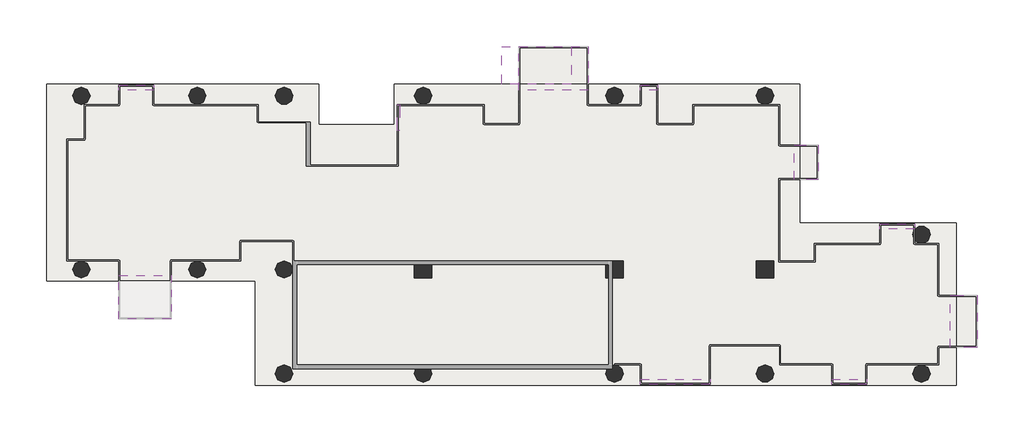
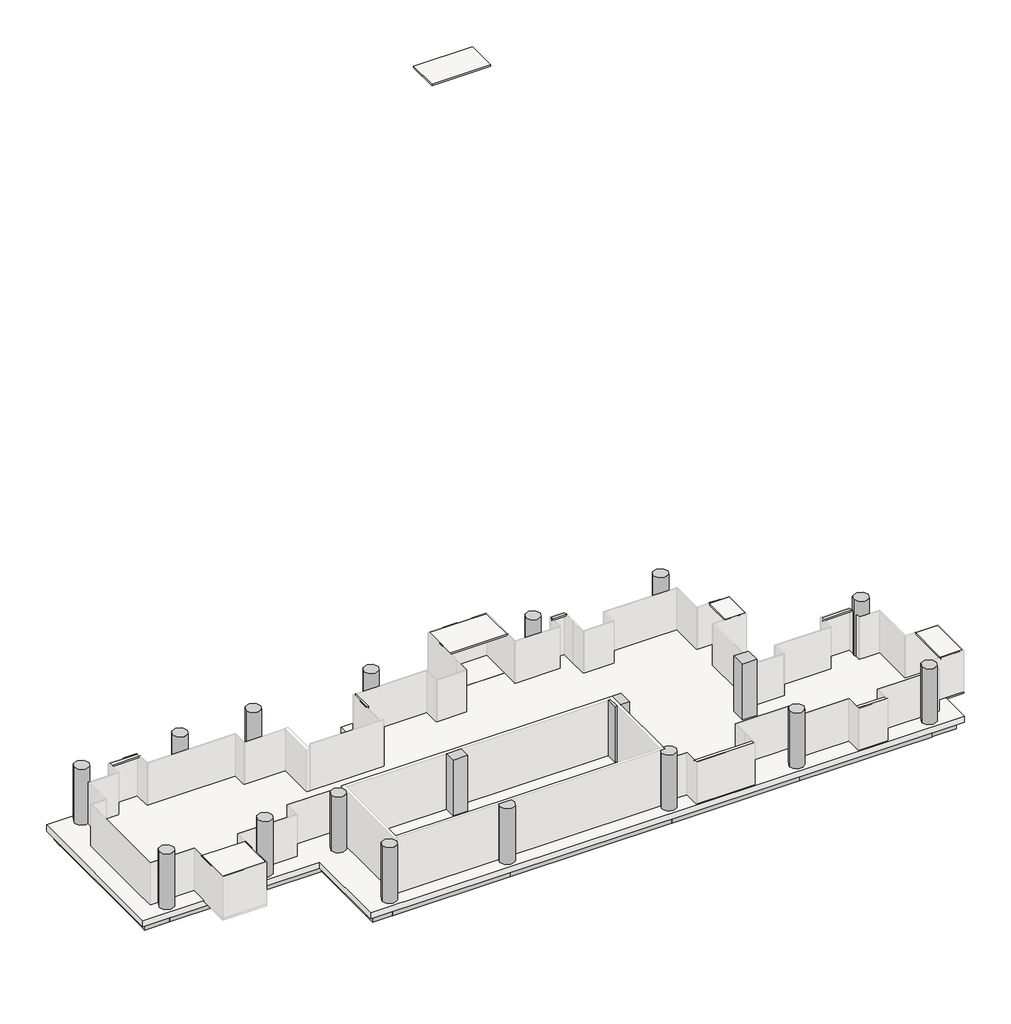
# One storey, part 2 of 2: 39 slabs, 25 beams, 18 columns.
"""IFC4 building model written with IfcOpenShell, lengths in millimetres."""

from ifc_helpers import new_model, si_unit, point, frame, frame_2d, origin, place, context, project, spatial, polyline, circle_curve, trimmed, segment, composite_curve, outline, extrude, transform, mapped, element, save
from ifc_brep_helpers import plane_surface, cylinder_surface, advanced_brep
from components import ajn_arc_ossature_rec_ba_700x600_5242ffbb, ajn_arc_ossature_rec_ba_700x600_213c05e2, ajn_arc_ossature_rec_ba_700x600_4d623bda, ajn_arc_ossature_rec_ba_700x600_c2a8f1af, ajn_arc_ossature_rec_ba_700x600_b2f97811, ajn_arc_ossature_rec_ba_700x600_e688680c, ajn_arc_ossature_rec_ba_700x600_8adee879, ajn_arc_ossature_rec_ba_700x600_6677e51c, ajn_arc_ossature_rec_ba_700x600_60e35d56, ajn_arc_ossature_rec_ba_700x600_9ae0f913, ajn_arc_ossature_rec_ba_700x600_5c14351b, ajn_arc_ossature_rec_ba_700x600_e883967f, ajn_arc_ossature_rec_ba_700x600_0984b03c, ajn_arc_ossature_rec_ba_700x600_78f846f2, ajn_arc_ossature_rec_ba_700x600_e869caa8, ajn_arc_ossature_rec_ba_700x600_0388eb48, ajn_arc_ossature_rec_ba_700x600_e143517c, ajn_arc_ossature_rec_ba_700x600_758f1bfa, ajn_arc_ossature_rec_ba_700x600_64ba80e1, ajn_arc_poteau_circulaire_d1b7cf26

model = new_model("IFC4")

# Units and contexts
model_context = context("Model", 3, world=origin())
ifc_project = project(units=[si_unit("LENGTHUNIT", "METRE", prefix="MILLI")], contexts=[model_context])

# Site, building, storey
site = spatial("IfcSite", under=ifc_project)
building = spatial("IfcBuilding", under=site)
storey = spatial("IfcBuildingStorey", under=building, Name="TW-L 07", Elevation=24399.9999686)

# Beams
placement = place(None, origin())
ajn_arc_ossature_rec_ba_700x600_shape = ajn_arc_ossature_rec_ba_700x600_5242ffbb(model_context)
element("IfcBeam", 1, ObjectType="AJN-ARC-OSSATURE REC-BA : 700x600", at=placement, inside=storey, context=model_context, shape_type="MappedRepresentation", body=[
    mapped(ajn_arc_ossature_rec_ba_700x600_shape, transform((119350.0, 39300.0, 23849.9999686), x_axis=(-1.0, 0.0, 0.0), y_axis=(0.0, -1.0, 0.0), z_axis=(0.0, 0.0, 1.0))),
])
ajn_arc_ossature_rec_ba_700x600_2_shape = ajn_arc_ossature_rec_ba_700x600_213c05e2(model_context)
element("IfcBeam", 2, ObjectType="AJN-ARC-OSSATURE REC-BA : 700x600", at=placement, inside=storey, context=model_context, shape_type="MappedRepresentation", body=[
    mapped(ajn_arc_ossature_rec_ba_700x600_2_shape, transform((100900.0, 34800.0, 23849.9999686), x_axis=(0.0, -1.0, 0.0), y_axis=(1.0, 0.0, 0.0), z_axis=(0.0, 0.0, 1.0))),
])
ajn_arc_ossature_rec_ba_700x600_3_shape = ajn_arc_ossature_rec_ba_700x600_4d623bda(model_context)
element("IfcBeam", 3, ObjectType="AJN-ARC-OSSATURE REC-BA : 700x600", at=placement, inside=storey, context=model_context, shape_type="MappedRepresentation", body=[
    mapped(ajn_arc_ossature_rec_ba_700x600_3_shape, transform((112150.0, 24900.0, 23849.9999686), x_axis=(1.0, 0.0, 0.0), y_axis=(0.0, 1.0, 0.0), z_axis=(0.0, 0.0, 1.0))),
])
ajn_arc_ossature_rec_ba_700x600_4_shape = ajn_arc_ossature_rec_ba_700x600_c2a8f1af(model_context)
element("IfcBeam", 4, ObjectType="AJN-ARC-OSSATURE REC-BA : 700x600", at=placement, inside=storey, context=model_context, shape_type="MappedRepresentation", body=[
    mapped(ajn_arc_ossature_rec_ba_700x600_4_shape, transform((116200.0, 24900.0, 23849.9999686), x_axis=(1.0, 0.0, 0.0), y_axis=(0.0, 1.0, 0.0), z_axis=(0.0, 0.0, 1.0))),
])
ajn_arc_ossature_rec_ba_700x600_5_shape = ajn_arc_ossature_rec_ba_700x600_b2f97811(model_context)
element("IfcBeam", 5, ObjectType="AJN-ARC-OSSATURE REC-BA : 700x600", at=placement, inside=storey, context=model_context, shape_type="MappedRepresentation", body=[
    mapped(ajn_arc_ossature_rec_ba_700x600_5_shape, transform((106900.0, 30300.0, 23849.9999686), x_axis=(1.0, 0.0, 0.0), y_axis=(0.0, 1.0, 0.0), z_axis=(0.0, 0.0, 1.0))),
])
ajn_arc_ossature_rec_ba_700x600_6_shape = ajn_arc_ossature_rec_ba_700x600_e688680c(model_context)
element("IfcBeam", 6, ObjectType="AJN-ARC-OSSATURE REC-BA : 700x600", at=placement, inside=storey, context=model_context, shape_type="MappedRepresentation", body=[
    mapped(ajn_arc_ossature_rec_ba_700x600_6_shape, transform((111700.0, 27600.0, 23849.9999686), x_axis=(0.0, -1.0, 0.0), y_axis=(1.0, 0.0, 0.0), z_axis=(0.0, 0.0, 1.0))),
])
ajn_arc_ossature_rec_ba_700x600_7_shape = ajn_arc_ossature_rec_ba_700x600_8adee879(model_context)
element("IfcBeam", 7, ObjectType="AJN-ARC-OSSATURE REC-BA : 700x600", at=placement, inside=storey, context=model_context, shape_type="MappedRepresentation", body=[
    mapped(ajn_arc_ossature_rec_ba_700x600_7_shape, transform((124750.0, 24900.0, 23849.9999686), x_axis=(1.0, 0.0, 0.0), y_axis=(0.0, 1.0, 0.0), z_axis=(0.0, 0.0, 1.0))),
])
element("IfcBeam", 8, ObjectType="AJN-ARC-OSSATURE REC-BA : 700x600", at=placement, inside=storey, context=model_context, shape_type="MappedRepresentation", body=[
    mapped(ajn_arc_ossature_rec_ba_700x600_7_shape, transform((124750.0, 39300.0, 23849.9999686), x_axis=(-1.0, 0.0, 0.0), y_axis=(0.0, -1.0, 0.0), z_axis=(0.0, 0.0, 1.0))),
])
ajn_arc_ossature_rec_ba_700x600_8_shape = ajn_arc_ossature_rec_ba_700x600_6677e51c(model_context)
element("IfcBeam", 9, ObjectType="AJN-ARC-OSSATURE REC-BA : 700x600", at=placement, inside=storey, context=model_context, shape_type="MappedRepresentation", body=[
    mapped(ajn_arc_ossature_rec_ba_700x600_8_shape, transform((133600.0, 24900.0, 23849.9999686), x_axis=(1.0, 0.0, 0.0), y_axis=(0.0, 1.0, 0.0), z_axis=(0.0, 0.0, 1.0))),
])
ajn_arc_ossature_rec_ba_700x600_9_shape = ajn_arc_ossature_rec_ba_700x600_60e35d56(model_context)
element("IfcBeam", 10, ObjectType="AJN-ARC-OSSATURE REC-BA : 700x600", at=placement, inside=storey, context=model_context, shape_type="MappedRepresentation", body=[
    mapped(ajn_arc_ossature_rec_ba_700x600_9_shape, transform((141550.0, 24900.0, 23849.9999686), x_axis=(1.0, 0.0, 0.0), y_axis=(0.0, 1.0, 0.0), z_axis=(0.0, 0.0, 1.0))),
])
ajn_arc_ossature_rec_ba_700x600_10_shape = ajn_arc_ossature_rec_ba_700x600_9ae0f913(model_context)
element("IfcBeam", 11, ObjectType="AJN-ARC-OSSATURE REC-BA : 700x600", at=placement, inside=storey, context=model_context, shape_type="MappedRepresentation", body=[
    mapped(ajn_arc_ossature_rec_ba_700x600_10_shape, transform((146200.0, 24900.0, 23849.9999686), x_axis=(1.0, 0.0, 0.0), y_axis=(0.0, 1.0, 0.0), z_axis=(0.0, 0.0, 1.0))),
])
element("IfcBeam", 12, ObjectType="AJN-ARC-OSSATURE REC-BA : 700x600", at=placement, inside=storey, context=model_context, shape_type="MappedRepresentation", body=[
    mapped(ajn_arc_ossature_rec_ba_700x600_10_shape, transform((101500.0, 39300.0, 23849.9999686), x_axis=(-1.0, 0.0, 0.0), y_axis=(0.0, -1.0, 0.0), z_axis=(0.0, 0.0, 1.0))),
])
ajn_arc_ossature_rec_ba_700x600_11_shape = ajn_arc_ossature_rec_ba_700x600_5c14351b(model_context)
element("IfcBeam", 13, ObjectType="AJN-ARC-OSSATURE REC-BA : 700x600", at=placement, inside=storey, context=model_context, shape_type="MappedRepresentation", body=[
    mapped(ajn_arc_ossature_rec_ba_700x600_11_shape, transform((146800.0, 28500.0, 23849.9999686), x_axis=(0.0, 1.0, 0.0), y_axis=(-1.0, 0.0, 0.0), z_axis=(0.0, 0.0, 1.0))),
])
element("IfcBeam", 14, ObjectType="AJN-ARC-OSSATURE REC-BA : 700x600", at=placement, inside=storey, context=model_context, shape_type="MappedRepresentation", body=[
    mapped(ajn_arc_ossature_rec_ba_700x600_11_shape, transform((138700.0, 35700.0, 23849.9999686), x_axis=(0.0, 1.0, 0.0), y_axis=(-1.0, 0.0, 0.0), z_axis=(0.0, 0.0, 1.0))),
])
ajn_arc_ossature_rec_ba_700x600_12_shape = ajn_arc_ossature_rec_ba_700x600_e883967f(model_context)
element("IfcBeam", 15, ObjectType="AJN-ARC-OSSATURE REC-BA : 700x600", at=placement, inside=storey, context=model_context, shape_type="MappedRepresentation", body=[
    mapped(ajn_arc_ossature_rec_ba_700x600_12_shape, transform((146200.0, 32100.0, 23849.9999686), x_axis=(-1.0, 0.0, 0.0), y_axis=(0.0, -1.0, 0.0), z_axis=(0.0, 0.0, 1.0))),
])
element("IfcBeam", 16, ObjectType="AJN-ARC-OSSATURE REC-BA : 700x600", at=placement, inside=storey, context=model_context, shape_type="MappedRepresentation", body=[
    mapped(ajn_arc_ossature_rec_ba_700x600_12_shape, transform((138100.0, 39300.0, 23849.9999686), x_axis=(-1.0, 0.0, 0.0), y_axis=(0.0, -1.0, 0.0), z_axis=(0.0, 0.0, 1.0))),
])
element("IfcBeam", 17, ObjectType="AJN-ARC-OSSATURE REC-BA : 700x600", at=placement, inside=storey, context=model_context, shape_type="MappedRepresentation", body=[
    mapped(ajn_arc_ossature_rec_ba_700x600_12_shape, transform((113200.0, 39300.0, 23849.9999686), x_axis=(-1.0, 0.0, 0.0), y_axis=(0.0, -1.0, 0.0), z_axis=(0.0, 0.0, 1.0))),
])
element("IfcBeam", 18, ObjectType="AJN-ARC-OSSATURE REC-BA : 700x600", at=placement, inside=storey, context=model_context, shape_type="MappedRepresentation", body=[
    mapped(ajn_arc_ossature_rec_ba_700x600_12_shape, transform((101500.0, 30300.0, 23849.9999686), x_axis=(1.0, 0.0, 0.0), y_axis=(0.0, 1.0, 0.0), z_axis=(0.0, 0.0, 1.0))),
])
ajn_arc_ossature_rec_ba_700x600_13_shape = ajn_arc_ossature_rec_ba_700x600_0984b03c(model_context)
element("IfcBeam", 19, ObjectType="AJN-ARC-OSSATURE REC-BA : 700x600", at=placement, inside=storey, context=model_context, shape_type="MappedRepresentation", body=[
    mapped(ajn_arc_ossature_rec_ba_700x600_13_shape, transform((142150.0, 32100.0, 23849.9999686), x_axis=(-1.0, 0.0, 0.0), y_axis=(0.0, -1.0, 0.0), z_axis=(0.0, 0.0, 1.0))),
])
ajn_arc_ossature_rec_ba_700x600_14_shape = ajn_arc_ossature_rec_ba_700x600_78f846f2(model_context)
element("IfcBeam", 20, ObjectType="AJN-ARC-OSSATURE REC-BA : 700x600", at=placement, inside=storey, context=model_context, shape_type="MappedRepresentation", body=[
    mapped(ajn_arc_ossature_rec_ba_700x600_14_shape, transform((133600.0, 39300.0, 23849.9999686), x_axis=(-1.0, 0.0, 0.0), y_axis=(0.0, -1.0, 0.0), z_axis=(0.0, 0.0, 1.0))),
])
ajn_arc_ossature_rec_ba_700x600_15_shape = ajn_arc_ossature_rec_ba_700x600_e869caa8(model_context)
element("IfcBeam", 21, ObjectType="AJN-ARC-OSSATURE REC-BA : 700x600", at=placement, inside=storey, context=model_context, shape_type="MappedRepresentation", body=[
    mapped(ajn_arc_ossature_rec_ba_700x600_15_shape, transform((118900.0, 38250.0, 23849.9999686), x_axis=(0.0, -1.0, 0.0), y_axis=(1.0, 0.0, 0.0), z_axis=(0.0, 0.0, 1.0))),
])
ajn_arc_ossature_rec_ba_700x600_16_shape = ajn_arc_ossature_rec_ba_700x600_0388eb48(model_context)
element("IfcBeam", 22, ObjectType="AJN-ARC-OSSATURE REC-BA : 700x600", at=placement, inside=storey, context=model_context, shape_type="MappedRepresentation", body=[
    mapped(ajn_arc_ossature_rec_ba_700x600_16_shape, transform((110350.0, 39300.0, 23849.9999686), x_axis=(-1.0, 0.0, 0.0), y_axis=(0.0, -1.0, 0.0), z_axis=(0.0, 0.0, 1.0))),
])
ajn_arc_ossature_rec_ba_700x600_17_shape = ajn_arc_ossature_rec_ba_700x600_e143517c(model_context)
element("IfcBeam", 23, ObjectType="AJN-ARC-OSSATURE REC-BA : 700x600", at=placement, inside=storey, context=model_context, shape_type="MappedRepresentation", body=[
    mapped(ajn_arc_ossature_rec_ba_700x600_17_shape, transform((105100.0, 39300.0, 23849.9999686), x_axis=(-1.0, 0.0, 0.0), y_axis=(0.0, -1.0, 0.0), z_axis=(0.0, 0.0, 1.0))),
])
ajn_arc_ossature_rec_ba_700x600_18_shape = ajn_arc_ossature_rec_ba_700x600_758f1bfa(model_context)
element("IfcBeam", 24, ObjectType="AJN-ARC-OSSATURE REC-BA : 700x600", at=placement, inside=storey, context=model_context, shape_type="MappedRepresentation", body=[
    mapped(ajn_arc_ossature_rec_ba_700x600_18_shape, transform((116350.0, 37200.0, 23849.9999686), x_axis=(-1.0, 0.0, 0.0), y_axis=(0.0, -1.0, 0.0), z_axis=(0.0, 0.0, 1.0))),
])
ajn_arc_ossature_rec_ba_700x600_19_shape = ajn_arc_ossature_rec_ba_700x600_64ba80e1(model_context)
element("IfcBeam", 25, ObjectType="AJN-ARC-OSSATURE REC-BA : 700x600", at=placement, inside=storey, context=model_context, shape_type="MappedRepresentation", body=[
    mapped(ajn_arc_ossature_rec_ba_700x600_19_shape, transform((113800.0, 38250.0, 23849.9999686), x_axis=(0.0, 1.0, 0.0), y_axis=(-1.0, 0.0, 0.0), z_axis=(0.0, 0.0, 1.0))),
])

# Columns
element("IfcColumn", 26, ObjectType="AJN-ARC-POTEAU CIRCULAIRE : ø90", at=placement, inside=storey, context=model_context, shape_type="SweptSolid", body=[
    extrude(outline(composite_curve([segment(trimmed(circle_curve(frame_2d((102100.0, 39300.0)), 450.0), [point((101650.0, 39300.0))], [point((102550.0, 39300.0))], False, "CARTESIAN"), True, "CONTINUOUS"), segment(trimmed(circle_curve(frame_2d((102100.0, 39300.0)), 450.0), [point((102550.0, 39300.0))], [point((101650.0, 39300.0))], False, "CARTESIAN"), True, "CONTINUOUS")], self_intersect=False)), frame((0.0, 0.0, 24399.9999686), z_axis=(0.0, 0.0, 1.0), x_axis=(1.0, 0.0, 0.0)), (0.0, 0.0, 1.0), 3600.0),
])
element("IfcColumn", 27, ObjectType="AJN-ARC-POTEAU CIRCULAIRE : ø90", at=placement, inside=storey, context=model_context, shape_type="SweptSolid", body=[
    extrude(outline(composite_curve([segment(trimmed(circle_curve(frame_2d((102100.0, 30300.0)), 450.0), [point((101650.0, 30300.0))], [point((102550.0, 30300.0))], False, "CARTESIAN"), True, "CONTINUOUS"), segment(trimmed(circle_curve(frame_2d((102100.0, 30300.0)), 450.0), [point((102550.0, 30300.0))], [point((101650.0, 30300.0))], False, "CARTESIAN"), True, "CONTINUOUS")], self_intersect=False)), frame((0.0, 0.0, 24399.9999686), z_axis=(0.0, 0.0, 1.0), x_axis=(1.0, 0.0, 0.0)), (0.0, 0.0, 1.0), 3600.0),
])
element("IfcColumn", 28, ObjectType="AJN-ARC-POTEAU CIRCULAIRE : ø90", at=placement, inside=storey, context=model_context, shape_type="SweptSolid", body=[
    extrude(outline(composite_curve([segment(trimmed(circle_curve(frame_2d((108100.0, 30300.0)), 450.0), [point((107650.0, 30300.0))], [point((108550.0, 30300.0))], False, "CARTESIAN"), True, "CONTINUOUS"), segment(trimmed(circle_curve(frame_2d((108100.0, 30300.0)), 450.0), [point((108550.0, 30300.0))], [point((107650.0, 30300.0))], False, "CARTESIAN"), True, "CONTINUOUS")], self_intersect=False)), frame((0.0, 0.0, 24399.9999686), z_axis=(0.0, 0.0, 1.0), x_axis=(1.0, 0.0, 0.0)), (0.0, 0.0, 1.0), 3600.0),
])
element("IfcColumn", 29, ObjectType="AJN-ARC-POTEAU CIRCULAIRE : ø90", at=placement, inside=storey, context=model_context, shape_type="SweptSolid", body=[
    extrude(outline(composite_curve([segment(trimmed(circle_curve(frame_2d((108100.0, 39300.0)), 450.0), [point((107650.0, 39300.0))], [point((108550.0, 39300.0))], False, "CARTESIAN"), True, "CONTINUOUS"), segment(trimmed(circle_curve(frame_2d((108100.0, 39300.0)), 450.0), [point((108550.0, 39300.0))], [point((107650.0, 39300.0))], False, "CARTESIAN"), True, "CONTINUOUS")], self_intersect=False)), frame((0.0, 0.0, 24399.9999686), z_axis=(0.0, 0.0, 1.0), x_axis=(1.0, 0.0, 0.0)), (0.0, 0.0, 1.0), 3600.0),
])
element("IfcColumn", 30, ObjectType="AJN-ARC-POTEAU CIRCULAIRE : ø90", at=placement, inside=storey, context=model_context, shape_type="SweptSolid", body=[
    extrude(outline(composite_curve([segment(trimmed(circle_curve(frame_2d((112600.0, 30300.0)), 450.0), [point((112150.0, 30300.0))], [point((113050.0, 30300.0))], False, "CARTESIAN"), True, "CONTINUOUS"), segment(trimmed(circle_curve(frame_2d((112600.0, 30300.0)), 450.0), [point((113050.0, 30300.0))], [point((112150.0, 30300.0))], False, "CARTESIAN"), True, "CONTINUOUS")], self_intersect=False)), frame((0.0, 0.0, 24399.9999686), z_axis=(0.0, 0.0, 1.0), x_axis=(1.0, 0.0, 0.0)), (0.0, 0.0, 1.0), 3600.0),
])
element("IfcColumn", 31, ObjectType="AJN-ARC-POTEAU CIRCULAIRE : ø90", at=placement, inside=storey, context=model_context, shape_type="SweptSolid", body=[
    extrude(outline(composite_curve([segment(trimmed(circle_curve(frame_2d((112600.0, 24900.0)), 450.0), [point((112150.0, 24900.0))], [point((113050.0, 24900.0))], False, "CARTESIAN"), True, "CONTINUOUS"), segment(trimmed(circle_curve(frame_2d((112600.0, 24900.0)), 450.0), [point((113050.0, 24900.0))], [point((112150.0, 24900.0))], False, "CARTESIAN"), True, "CONTINUOUS")], self_intersect=False)), frame((0.0, 0.0, 24399.9999686), z_axis=(0.0, 0.0, 1.0), x_axis=(1.0, 0.0, 0.0)), (0.0, 0.0, 1.0), 3600.0),
])
element("IfcColumn", 32, ObjectType="AJN-ARC-POTEAU CIRCULAIRE : ø90", at=placement, inside=storey, context=model_context, shape_type="SweptSolid", body=[
    extrude(outline(composite_curve([segment(trimmed(circle_curve(frame_2d((119800.0, 24900.0)), 450.0), [point((120250.0, 24900.0))], [point((119350.0, 24900.0))], False, "CARTESIAN"), True, "CONTINUOUS"), segment(trimmed(circle_curve(frame_2d((119800.0, 24900.0)), 450.0), [point((119350.0, 24900.0))], [point((119425.8342613, 25150.0))], False, "CARTESIAN"), True, "CONTINUOUS"), segment(polyline([(119425.8342613, 25150.0), (120174.1657387, 25150.0)]), True, "CONTINUOUS"), segment(trimmed(circle_curve(frame_2d((119800.0, 24900.0)), 450.0), [point((120174.1657387, 25150.0))], [point((120250.0, 24900.0))], False, "CARTESIAN"), True, "CONTINUOUS")], self_intersect=False)), frame((0.0, 0.0, 24399.9999686), z_axis=(0.0, 0.0, 1.0), x_axis=(1.0, 0.0, 0.0)), (0.0, 0.0, 1.0), 3600.0),
])
element("IfcColumn", 33, ObjectType="AJN-ARC-POTEAU CIRCULAIRE : ø90", at=placement, inside=storey, context=model_context, shape_type="SweptSolid", body=[
    extrude(outline(composite_curve([segment(trimmed(circle_curve(frame_2d((119800.0, 39300.0)), 450.0), [point((119350.0, 39300.0))], [point((120250.0, 39300.0))], False, "CARTESIAN"), True, "CONTINUOUS"), segment(trimmed(circle_curve(frame_2d((119800.0, 39300.0)), 450.0), [point((120250.0, 39300.0))], [point((119350.0, 39300.0))], False, "CARTESIAN"), True, "CONTINUOUS")], self_intersect=False)), frame((0.0, 0.0, 24399.9999686), z_axis=(0.0, 0.0, 1.0), x_axis=(1.0, 0.0, 0.0)), (0.0, 0.0, 1.0), 3600.0),
])
element("IfcColumn", 34, ObjectType="AJN-ARC-POTEAU CIRCULAIRE : ø90", at=placement, inside=storey, context=model_context, shape_type="SweptSolid", body=[
    extrude(outline(composite_curve([segment(trimmed(circle_curve(frame_2d((129700.0, 39300.0)), 450.0), [point((129250.0, 39300.0))], [point((130150.0, 39300.0))], False, "CARTESIAN"), True, "CONTINUOUS"), segment(trimmed(circle_curve(frame_2d((129700.0, 39300.0)), 450.0), [point((130150.0, 39300.0))], [point((129250.0, 39300.0))], False, "CARTESIAN"), True, "CONTINUOUS")], self_intersect=False)), frame((0.0, 0.0, 24399.9999686), z_axis=(0.0, 0.0, 1.0), x_axis=(1.0, 0.0, 0.0)), (0.0, 0.0, 1.0), 3600.0),
])
element("IfcColumn", 35, ObjectType="AJN-ARC-POTEAU CIRCULAIRE : ø90", at=placement, inside=storey, context=model_context, shape_type="SweptSolid", body=[
    extrude(outline(composite_curve([segment(trimmed(circle_curve(frame_2d((129700.0, 24900.0)), 450.0), [point((130150.0, 24900.0))], [point((129250.0, 24900.0))], False, "CARTESIAN"), True, "CONTINUOUS"), segment(trimmed(circle_curve(frame_2d((129700.0, 24900.0)), 450.0), [point((129250.0, 24900.0))], [point((129325.8342613, 25150.0))], False, "CARTESIAN"), True, "CONTINUOUS"), segment(polyline([(129325.8342613, 25150.0), (129600.0, 25150.0), (129600.0, 25338.7482194)]), True, "CONTINUOUS"), segment(trimmed(circle_curve(frame_2d((129700.0, 24900.0)), 450.0), [point((129600.0, 25338.7482194))], [point((130150.0, 24900.0))], False, "CARTESIAN"), True, "CONTINUOUS")], self_intersect=False)), frame((0.0, 0.0, 24399.9999686), z_axis=(0.0, 0.0, 1.0), x_axis=(1.0, 0.0, 0.0)), (0.0, 0.0, 1.0), 3600.0),
])
element("IfcColumn", 36, ObjectType="AJN-ARC-POTEAU CIRCULAIRE : ø90", at=placement, inside=storey, context=model_context, shape_type="SweptSolid", body=[
    extrude(outline(composite_curve([segment(trimmed(circle_curve(frame_2d((137500.0, 39300.0)), 450.0), [point((137050.0, 39300.0))], [point((137950.0, 39300.0))], False, "CARTESIAN"), True, "CONTINUOUS"), segment(trimmed(circle_curve(frame_2d((137500.0, 39300.0)), 450.0), [point((137950.0, 39300.0))], [point((137050.0, 39300.0))], False, "CARTESIAN"), True, "CONTINUOUS")], self_intersect=False)), frame((0.0, 0.0, 24399.9999686), z_axis=(0.0, 0.0, 1.0), x_axis=(1.0, 0.0, 0.0)), (0.0, 0.0, 1.0), 3600.0),
])
element("IfcColumn", 37, ObjectType="AJN-ARC-POTEAU CIRCULAIRE : ø90", at=placement, inside=storey, context=model_context, shape_type="SweptSolid", body=[
    extrude(outline(composite_curve([segment(trimmed(circle_curve(frame_2d((145600.0, 24900.0)), 450.0), [point((145150.0, 24900.0))], [point((146050.0, 24900.0))], False, "CARTESIAN"), True, "CONTINUOUS"), segment(trimmed(circle_curve(frame_2d((145600.0, 24900.0)), 450.0), [point((146050.0, 24900.0))], [point((145150.0, 24900.0))], False, "CARTESIAN"), True, "CONTINUOUS")], self_intersect=False)), frame((0.0, 0.0, 24399.9999686), z_axis=(0.0, 0.0, 1.0), x_axis=(1.0, 0.0, 0.0)), (0.0, 0.0, 1.0), 3600.0),
])
element("IfcColumn", 38, ObjectType="AJN-ARC-POTEAU CIRCULAIRE : ø90", at=placement, inside=storey, context=model_context, shape_type="AdvancedBrep", body=[
    advanced_brep(
    [(146050.0, 32100.0, 24399.9999686), (145638.6089983, 31651.6593424, 24399.9999686), (145561.3910017, 31651.6593424, 24399.9999686), (145247.681474, 31820.0506184, 24399.9999686), (145247.681474, 32379.9493816, 24399.9999686), (145150.0, 32100.0, 27999.9999686), (146050.0, 32100.0, 27999.9999686), (145247.681474, 32379.9493816, 27099.9999686), (145197.681474, 32301.5931636, 27099.9999686), (145197.681474, 32301.5931636, 24399.9999686), (145150.0, 32100.0, 24399.9999686), (145197.681474, 31898.4068364, 24399.9999686), (145197.681474, 31898.4068364, 27099.9999686), (145247.681474, 31820.0506184, 27099.9999686), (145561.3910017, 31651.6593424, 27099.9999686), (145638.6089983, 31651.6593424, 27099.9999686)],
    [
        (0, 1, circle_curve(frame((145600.0, 32100.0, 24399.9999686), z_axis=(0.0, 0.0, -1.0), x_axis=(1.0, 0.0, 0.0)), 450.0)),
        (1, 2),
        (2, 3, circle_curve(frame((145600.0, 32100.0, 24399.9999686), z_axis=(0.0, 0.0, -1.0), x_axis=(1.0, 0.0, 0.0)), 450.0)),
        (3, 4),
        (4, 0, circle_curve(frame((145600.0, 32100.0, 24399.9999686), z_axis=(0.0, 0.0, -1.0), x_axis=(1.0, 0.0, 0.0)), 450.0)),
        (5, 6, circle_curve(frame((145600.0, 32100.0, 27999.9999686), z_axis=(0.0, 0.0, -1.0), x_axis=(1.0, 0.0, 0.0)), 450.0)),
        (6, 0),
        (4, 7),
        (7, 8, circle_curve(frame((145600.0, 32100.0, 27099.9999686), z_axis=(0.0, 0.0, 1.0), x_axis=(1.0, 0.0, 0.0)), 450.0)),
        (8, 9),
        (9, 10, circle_curve(frame((145600.0, 32100.0, 24399.9999686), z_axis=(0.0, 0.0, 1.0), x_axis=(1.0, 0.0, 0.0)), 450.0)),
        (10, 5),
        (6, 5, circle_curve(frame((145600.0, 32100.0, 27999.9999686), z_axis=(0.0, 0.0, -1.0), x_axis=(1.0, 0.0, 0.0)), 450.0)),
        (10, 11, circle_curve(frame((145600.0, 32100.0, 24399.9999686), z_axis=(0.0, 0.0, 1.0), x_axis=(1.0, 0.0, 0.0)), 450.0)),
        (11, 12),
        (12, 13, circle_curve(frame((145600.0, 32100.0, 27099.9999686), z_axis=(0.0, 0.0, 1.0), x_axis=(1.0, 0.0, 0.0)), 450.0)),
        (13, 3),
        (2, 14),
        (14, 15, circle_curve(frame((145600.0, 32100.0, 27099.9999686), z_axis=(0.0, 0.0, 1.0), x_axis=(1.0, 0.0, 0.0)), 450.0)),
        (15, 1),
        (15, 14),
        (13, 7),
        (8, 12),
        (11, 9),
    ],
    [
        plane_surface(frame((146050.0, 32100.0, 24399.9999686), z_axis=(0.0, 0.0, -1.0), x_axis=(0.0, -1.0, 0.0))),
        cylinder_surface(frame((145600.0, 32100.0, 24399.9999686), z_axis=(0.0, 0.0, 1.0), x_axis=(1.0, 0.0, 0.0)), 450.0),
        plane_surface(frame((146050.0, 32100.0, 27999.9999686), z_axis=(0.0, 0.0, 1.0), x_axis=(0.0, 1.0, 0.0))),
        plane_surface(frame((146472.681474, 31651.6593424, 24399.9999686), z_axis=(0.0, -1.0, 0.0), x_axis=(-1.0, 0.0, 0.0))),
        plane_surface(frame((145247.681474, 31651.6593424, 27099.9999686), z_axis=(0.0, 0.0, -1.0), x_axis=(0.0, -1.0, 0.0))),
        plane_surface(frame((145247.681474, 31651.6593424, 24399.9999686), z_axis=(-1.0, 0.0, 0.0), x_axis=(0.0, 1.0, 0.0))),
        plane_surface(frame((145197.681474, 31651.6593424, 24399.9999686), z_axis=(1.0, 0.0, 0.0), x_axis=(0.0, -1.0, 0.0))),
        plane_surface(frame((145247.681474, 32626.6593424, 27099.9999686), z_axis=(0.0, 0.0, -1.0), x_axis=(-1.0, 0.0, 0.0))),
    ],
    [
        (0, [[1, 2, 3, 4, 5]]),
        (1, [[6, 7, -5, 8, 9, 10, 11, 12]]),
        (1, [[-7, 13, -12, 14, 15, 16, 17, -3, 18, 19, 20, -1]]),
        (2, [[-6, -13]]),
        (3, [[21, -18, -2, -20]]),
        (4, [[-21, -19]]),
        (5, [[22, -8, -4, -17]]),
        (6, [[23, -15, 24, -10]]),
        (7, [[-22, -16, -23, -9]]),
        (0, [[-11, -24, -14]]),
    ],
),
])
ajn_arc_poteau_circulaire_shape = ajn_arc_poteau_circulaire_d1b7cf26(model_context)
element("IfcColumn", 39, ObjectType="AJN-ARC-POTEAU CIRCULAIRE : ø90", at=placement, inside=storey, context=model_context, shape_type="MappedRepresentation", body=[
    mapped(ajn_arc_poteau_circulaire_shape, transform((112600.0, 39300.0, 0.0), x_axis=(1.0, 0.0, 0.0), y_axis=(0.0, 1.0, 0.0), z_axis=(0.0, 0.0, 1.0))),
])
element("IfcColumn", 40, ObjectType="AJN-ARC-POTEAU CIRCULAIRE : ø90", at=placement, inside=storey, context=model_context, shape_type="MappedRepresentation", body=[
    mapped(ajn_arc_poteau_circulaire_shape, transform((137500.0, 24900.0, 0.0), x_axis=(1.0, 0.0, 0.0), y_axis=(0.0, 1.0, 0.0), z_axis=(0.0, 0.0, 1.0))),
])
element("IfcColumn", 41, ObjectType="AJN-ARC-POTEAU RECTANGULAIRE : 900 mm x 900 mm", at=placement, inside=storey, context=model_context, shape_type="SweptSolid", body=[
    extrude(outline(polyline([(137950.0, 30750.0), (137950.0, 29850.0), (137050.0, 29850.0), (137050.0, 30750.0), (137950.0, 30750.0)])), frame((0.0, 0.0, 24399.9999686), z_axis=(0.0, 0.0, 1.0), x_axis=(1.0, 0.0, 0.0)), (0.0, 0.0, 1.0), 3600.0),
])
element("IfcColumn", 42, ObjectType="AJN-ARC-POTEAU RECTANGULAIRE : 900 mm x 900 mm", at=placement, inside=storey, context=model_context, shape_type="SweptSolid", body=[
    extrude(outline(polyline([(129400.0, 29850.0), (129250.0, 29850.0), (129250.0, 30550.0), (129400.0, 30550.0), (129400.0, 29850.0)])), frame((0.0, 0.0, 24399.9999686), z_axis=(0.0, 0.0, 1.0), x_axis=(1.0, 0.0, 0.0)), (0.0, 0.0, 1.0), 3600.0),
    extrude(outline(polyline([(130150.0, 30750.0), (130150.0, 29850.0), (129600.0, 29850.0), (129600.0, 30750.0), (130150.0, 30750.0)])), frame((0.0, 0.0, 24399.9999686), z_axis=(0.0, 0.0, 1.0), x_axis=(1.0, 0.0, 0.0)), (0.0, 0.0, 1.0), 3600.0),
])
element("IfcColumn", 43, ObjectType="AJN-ARC-POTEAU RECTANGULAIRE : 900 mm x 900 mm", at=placement, inside=storey, context=model_context, shape_type="SweptSolid", body=[
    extrude(outline(polyline([(120250.0, 29850.0), (119350.0, 29850.0), (119350.0, 30550.0), (120250.0, 30550.0), (120250.0, 29850.0)])), frame((0.0, 0.0, 24399.9999686), z_axis=(0.0, 0.0, 1.0), x_axis=(1.0, 0.0, 0.0)), (0.0, 0.0, 1.0), 3600.0),
])

# Slabs
element("IfcSlab", 44, ObjectType="AJN-ARC-SLAB-10cm", at=placement, inside=storey, context=model_context, shape_type="SweptSolid", body=[
    extrude(outline(polyline([(140250.0, 34950.0), (139300.0, 34950.0), (139300.0, 36750.0), (140250.0, 36750.0), (140250.0, 34950.0)])), frame((0.0, 0.0, 24299.9999686), z_axis=(0.0, 0.0, 1.0), x_axis=(1.0, 0.0, 0.0)), (0.0, 0.0, 1.0), 100.0),
])
element("IfcSlab", 45, ObjectType="AJN-ARC-SLAB-10cm", at=placement, inside=storey, context=model_context, shape_type="SweptSolid", body=[
    extrude(outline(polyline([(128357.0344085, 39900.0), (124757.0344085, 39900.0), (124757.0344085, 41850.0), (128357.0344085, 41850.0), (128357.0344085, 39900.0)])), frame((0.0, 0.0, 24299.9999686), z_axis=(0.0, 0.0, 1.0), x_axis=(1.0, 0.0, 0.0)), (0.0, 0.0, 1.0), 100.0),
])
element("IfcSlab", 46, ObjectType="AJN-ARC-SLAB-10cm", at=placement, inside=storey, context=model_context, shape_type="SweptSolid", body=[
    extrude(outline(polyline([(148497.681474, 26250.8809735), (147400.0, 26250.8809735), (147400.0, 28950.8809735), (148497.681474, 28950.8809735), (148497.681474, 26250.8809735)])), frame((0.0, 0.0, 24299.9999686), z_axis=(0.0, 0.0, 1.0), x_axis=(1.0, 0.0, 0.0)), (0.0, 0.0, 1.0), 100.0),
])
element("IfcSlab", 47, ObjectType="AJN-ARC-SLAB-10cm", at=placement, inside=storey, context=model_context, shape_type="SweptSolid", body=[
    extrude(outline(polyline([(148497.681474, 26250.8809735), (147400.0, 26250.8809735), (147400.0, 28950.8809735), (148497.681474, 28950.8809735), (148497.681474, 26250.8809735)])), frame((0.0, 0.0, 24299.9999686), z_axis=(0.0, 0.0, 1.0), x_axis=(1.0, 0.0, 0.0)), (0.0, 0.0, 1.0), 100.0),
])
element("IfcSlab", 48, ObjectType="AJN-ARC-SLAB-10cm", at=placement, inside=storey, context=model_context, shape_type="SweptSolid", body=[
    extrude(outline(polyline([(148497.681474, 26250.8809735), (147400.0, 26250.8809735), (147400.0, 28950.8809735), (148497.681474, 28950.8809735), (148497.681474, 26250.8809735)])), frame((0.0, 0.0, 24299.9999686), z_axis=(0.0, 0.0, 1.0), x_axis=(1.0, 0.0, 0.0)), (0.0, 0.0, 1.0), 100.0),
])
element("IfcSlab", 49, ObjectType="AJN-ARC-SLAB-10cm", at=placement, inside=storey, context=model_context, shape_type="SweptSolid", body=[
    extrude(outline(polyline([(148497.681474, 26250.8809735), (147400.0, 26250.8809735), (147400.0, 28950.8809735), (148497.681474, 28950.8809735), (148497.681474, 26250.8809735)])), frame((0.0, 0.0, 24299.9999686), z_axis=(0.0, 0.0, 1.0), x_axis=(1.0, 0.0, 0.0)), (0.0, 0.0, 1.0), 100.0),
])
element("IfcSlab", 50, ObjectType="AJN-ARC-SLAB-10cm", at=placement, inside=storey, context=model_context, shape_type="SweptSolid", body=[
    extrude(outline(polyline([(148497.681474, 26250.8809735), (147400.0, 26250.8809735), (147400.0, 28950.8809735), (148497.681474, 28950.8809735), (148497.681474, 26250.8809735)])), frame((0.0, 0.0, 24299.9999686), z_axis=(0.0, 0.0, 1.0), x_axis=(1.0, 0.0, 0.0)), (0.0, 0.0, 1.0), 100.0),
])
element("IfcSlab", 51, ObjectType="AJN-ARC-SLAB-10cm", at=placement, inside=storey, context=model_context, shape_type="SweptSolid", body=[
    extrude(outline(polyline([(148497.681474, 26250.8809735), (147400.0, 26250.8809735), (147400.0, 28950.8809735), (148497.681474, 28950.8809735), (148497.681474, 26250.8809735)])), frame((0.0, 0.0, 24299.9999686), z_axis=(0.0, 0.0, 1.0), x_axis=(1.0, 0.0, 0.0)), (0.0, 0.0, 1.0), 100.0),
])
element("IfcSlab", 52, ObjectType="AJN-ARC-SLAB-10cm", at=placement, inside=storey, context=model_context, shape_type="SweptSolid", body=[
    extrude(outline(polyline([(148497.681474, 26250.8809735), (147400.0, 26250.8809735), (147400.0, 28950.8809735), (148497.681474, 28950.8809735), (148497.681474, 26250.8809735)])), frame((0.0, 0.0, 24299.9999686), z_axis=(0.0, 0.0, 1.0), x_axis=(1.0, 0.0, 0.0)), (0.0, 0.0, 1.0), 100.0),
])
element("IfcSlab", 53, ObjectType="AJN-ARC-SLAB-10cm", at=placement, inside=storey, context=model_context, shape_type="SweptSolid", body=[
    extrude(outline(polyline([(148497.681474, 26250.8809735), (147400.0, 26250.8809735), (147400.0, 28950.8809735), (148497.681474, 28950.8809735), (148497.681474, 26250.8809735)])), frame((0.0, 0.0, 24299.9999686), z_axis=(0.0, 0.0, 1.0), x_axis=(1.0, 0.0, 0.0)), (0.0, 0.0, 1.0), 100.0),
])
element("IfcSlab", 54, ObjectType="AJN-ARC-SLAB-10cm", at=placement, inside=storey, context=model_context, shape_type="SweptSolid", body=[
    extrude(outline(polyline([(148497.681474, 26250.8809735), (147400.0, 26250.8809735), (147400.0, 28950.8809735), (148497.681474, 28950.8809735), (148497.681474, 26250.8809735)])), frame((0.0, 0.0, 24299.9999686), z_axis=(0.0, 0.0, 1.0), x_axis=(1.0, 0.0, 0.0)), (0.0, 0.0, 1.0), 100.0),
])
element("IfcSlab", 55, ObjectType="AJN-ARC-SLAB-10cm", at=placement, inside=storey, context=model_context, shape_type="SweptSolid", body=[
    extrude(outline(polyline([(148497.681474, 26250.8809735), (147400.0, 26250.8809735), (147400.0, 28950.8809735), (148497.681474, 28950.8809735), (148497.681474, 26250.8809735)])), frame((0.0, 0.0, 24299.9999686), z_axis=(0.0, 0.0, 1.0), x_axis=(1.0, 0.0, 0.0)), (0.0, 0.0, 1.0), 100.0),
])
element("IfcSlab", 56, ObjectType="AJN-ARC-SLAB-10cm", at=placement, inside=storey, context=model_context, shape_type="SweptSolid", body=[
    extrude(outline(polyline([(148497.681474, 26250.8809735), (147400.0, 26250.8809735), (147400.0, 28950.8809735), (148497.681474, 28950.8809735), (148497.681474, 26250.8809735)])), frame((0.0, 0.0, 24299.9999686), z_axis=(0.0, 0.0, 1.0), x_axis=(1.0, 0.0, 0.0)), (0.0, 0.0, 1.0), 100.0),
])
element("IfcSlab", 57, ObjectType="AJN-ARC-SLAB-10cm", at=placement, inside=storey, context=model_context, shape_type="SweptSolid", body=[
    extrude(outline(polyline([(148497.681474, 26250.8809735), (147400.0, 26250.8809735), (147400.0, 28950.8809735), (148497.681474, 28950.8809735), (148497.681474, 26250.8809735)])), frame((0.0, 0.0, 24299.9999686), z_axis=(0.0, 0.0, 1.0), x_axis=(1.0, 0.0, 0.0)), (0.0, 0.0, 1.0), 100.0),
])
element("IfcSlab", 58, ObjectType="AJN-ARC-SLAB-10cm", at=placement, inside=storey, context=model_context, shape_type="SweptSolid", body=[
    extrude(outline(polyline([(148497.681474, 26250.8809735), (147400.0, 26250.8809735), (147400.0, 28950.8809735), (148497.681474, 28950.8809735), (148497.681474, 26250.8809735)])), frame((0.0, 0.0, 24299.9999686), z_axis=(0.0, 0.0, 1.0), x_axis=(1.0, 0.0, 0.0)), (0.0, 0.0, 1.0), 100.0),
])
element("IfcSlab", 59, ObjectType="AJN-ARC-SLAB-10cm", at=placement, inside=storey, context=model_context, shape_type="SweptSolid", body=[
    extrude(outline(polyline([(148497.681474, 26250.8809735), (147400.0, 26250.8809735), (147400.0, 28950.8809735), (148497.681474, 28950.8809735), (148497.681474, 26250.8809735)])), frame((0.0, 0.0, 24299.9999686), z_axis=(0.0, 0.0, 1.0), x_axis=(1.0, 0.0, 0.0)), (0.0, 0.0, 1.0), 100.0),
])
element("IfcSlab", 60, ObjectType="AJN-ARC-SLAB-10cm", at=placement, inside=storey, context=model_context, shape_type="SweptSolid", body=[
    extrude(outline(polyline([(148497.681474, 26250.8809735), (147400.0, 26250.8809735), (147400.0, 28950.8809735), (148497.681474, 28950.8809735), (148497.681474, 26250.8809735)])), frame((0.0, 0.0, 24299.9999686), z_axis=(0.0, 0.0, 1.0), x_axis=(1.0, 0.0, 0.0)), (0.0, 0.0, 1.0), 100.0),
])
element("IfcSlab", 61, ObjectType="AJN-ARC-SLAB-10cm", at=placement, inside=storey, context=model_context, shape_type="SweptSolid", body=[
    extrude(outline(polyline([(148497.681474, 26250.8809735), (147400.0, 26250.8809735), (147400.0, 28950.8809735), (148497.681474, 28950.8809735), (148497.681474, 26250.8809735)])), frame((0.0, 0.0, 24299.9999686), z_axis=(0.0, 0.0, 1.0), x_axis=(1.0, 0.0, 0.0)), (0.0, 0.0, 1.0), 100.0),
])
element("IfcSlab", 62, ObjectType="AJN-ARC-SLAB-10cm", at=placement, inside=storey, context=model_context, shape_type="SweptSolid", body=[
    extrude(outline(polyline([(105850.0, 39600.0), (104050.0, 39600.0), (104050.0, 39850.0), (105850.0, 39850.0), (105850.0, 39600.0)])), frame((0.0, 0.0, 26999.9999686), z_axis=(0.0, 0.0, 1.0), x_axis=(1.0, 0.0, 0.0)), (0.0, 0.0, 1.0), 100.0),
])
element("IfcSlab", 63, ObjectType="AJN-ARC-SLAB-10cm", at=placement, inside=storey, context=model_context, shape_type="SweptSolid", body=[
    extrude(outline(polyline([(106747.1743518, 27750.0), (104047.1743518, 27750.0), (104047.1743518, 30000.0), (106747.1743518, 30000.0), (106747.1743518, 27750.0)])), frame((0.0, 0.0, 26999.9999686), z_axis=(0.0, 0.0, 1.0), x_axis=(1.0, 0.0, 0.0)), (0.0, 0.0, 1.0), 100.0),
])
element("IfcSlab", 64, ObjectType="AJN-ARC-SLAB-10cm", at=placement, inside=storey, context=model_context, shape_type="SweptSolid", body=[
    extrude(outline(polyline([(134650.3171747, 24350.0), (131050.3171747, 24350.0), (131050.3171747, 24600.0), (134650.3171747, 24600.0), (134650.3171747, 24350.0)])), frame((0.0, 0.0, 26999.9999686), z_axis=(0.0, 0.0, 1.0), x_axis=(1.0, 0.0, 0.0)), (0.0, 0.0, 1.0), 100.0),
])
element("IfcSlab", 65, ObjectType="AJN-ARC-SLAB-10cm", at=placement, inside=storey, context=model_context, shape_type="SweptSolid", body=[
    extrude(outline(polyline([(128357.0344085, 39600.0), (124757.0344085, 39600.0), (124757.0344085, 41850.0), (128357.0344085, 41850.0), (128357.0344085, 39600.0)])), frame((0.0, 0.0, 26999.9999686), z_axis=(0.0, 0.0, 1.0), x_axis=(1.0, 0.0, 0.0)), (0.0, 0.0, 1.0), 100.0),
])
element("IfcSlab", 66, ObjectType="AJN-ARC-SLAB-10cm", at=placement, inside=storey, context=model_context, shape_type="SweptSolid", body=[
    extrude(outline(polyline([(142754.1152728, 24350.0), (140954.1152728, 24350.0), (140954.1152728, 24600.0), (142754.1152728, 24600.0), (142754.1152728, 24350.0)])), frame((0.0, 0.0, 26999.9999686), z_axis=(0.0, 0.0, 1.0), x_axis=(1.0, 0.0, 0.0)), (0.0, 0.0, 1.0), 100.0),
])
element("IfcSlab", 67, ObjectType="AJN-ARC-SLAB-10cm", at=placement, inside=storey, context=model_context, shape_type="SweptSolid", body=[
    extrude(outline(polyline([(131950.0, 39600.0), (131050.0, 39600.0), (131050.0, 39850.0), (131950.0, 39850.0), (131950.0, 39600.0)])), frame((0.0, 0.0, 26999.9999686), z_axis=(0.0, 0.0, 1.0), x_axis=(1.0, 0.0, 0.0)), (0.0, 0.0, 1.0), 100.0),
])
element("IfcSlab", 68, ObjectType="AJN-ARC-SLAB-10cm", at=placement, inside=storey, context=model_context, shape_type="SweptSolid", body=[
    extrude(outline(polyline([(148497.681474, 26250.8809735), (147100.0, 26250.8809735), (147100.0, 28950.8809735), (148497.681474, 28950.8809735), (148497.681474, 26250.8809735)])), frame((0.0, 0.0, 26999.9999686), z_axis=(0.0, 0.0, 1.0), x_axis=(1.0, 0.0, 0.0)), (0.0, 0.0, 1.0), 100.0),
])
element("IfcSlab", 69, ObjectType="AJN-ARC-SLAB-10cm", at=placement, inside=storey, context=model_context, shape_type="SweptSolid", body=[
    extrude(outline(polyline([(140250.0, 34950.0), (139000.0, 34950.0), (139000.0, 36750.0), (140250.0, 36750.0), (140250.0, 34950.0)])), frame((0.0, 0.0, 26999.9999686), z_axis=(0.0, 0.0, 1.0), x_axis=(1.0, 0.0, 0.0)), (0.0, 0.0, 1.0), 100.0),
])
element("IfcSlab", 70, ObjectType="AJN-ARC-SLAB-10cm", at=placement, inside=storey, context=model_context, shape_type="SweptSolid", body=[
    extrude(outline(polyline([(118600.0, 37500.0), (118450.0, 37500.0), (118450.0, 38850.0), (118600.0, 38850.0), (118600.0, 37500.0)])), frame((0.0, 0.0, 26999.9999686), z_axis=(0.0, 0.0, 1.0), x_axis=(1.0, 0.0, 0.0)), (0.0, 0.0, 1.0), 100.0),
])
element("IfcSlab", 71, ObjectType="AJN-ARC-SLAB-10cm", at=placement, inside=storey, context=model_context, shape_type="SweptSolid", body=[
    extrude(outline(polyline([(145247.681474, 32400.0), (143447.681474, 32400.0), (143447.681474, 32651.6593424), (145247.681474, 32651.6593424), (145247.681474, 32400.0)])), frame((0.0, 0.0, 26999.9999686), z_axis=(0.0, 0.0, 1.0), x_axis=(1.0, 0.0, 0.0)), (0.0, 0.0, 1.0), 100.0),
])
element("IfcSlab", 72, ObjectType="AJN-ARC-SLAB-10cm", at=placement, inside=storey, context=model_context, shape_type="SweptSolid", body=[
    extrude(outline(polyline([(145247.681474, 32400.0), (143447.681474, 32400.0), (143447.681474, 32651.6593424), (145247.681474, 32651.6593424), (145247.681474, 32400.0)])), frame((0.0, 0.0, 26999.9999686), z_axis=(0.0, 0.0, 1.0), x_axis=(1.0, 0.0, 0.0)), (0.0, 0.0, 1.0), 100.0),
])
element("IfcSlab", 73, ObjectType="AJN-ARC-SLAB-10cm", at=placement, inside=storey, context=model_context, shape_type="SweptSolid", body=[
    extrude(outline(polyline([(145247.681474, 32400.0), (143447.681474, 32400.0), (143447.681474, 32651.6593424), (145247.681474, 32651.6593424), (145247.681474, 32400.0)])), frame((0.0, 0.0, 26999.9999686), z_axis=(0.0, 0.0, 1.0), x_axis=(1.0, 0.0, 0.0)), (0.0, 0.0, 1.0), 100.0),
])
element("IfcSlab", 74, ObjectType="AJN-ARC-SLAB-10cm", at=placement, inside=storey, context=model_context, shape_type="SweptSolid", body=[
    extrude(outline(polyline([(145247.681474, 32400.0), (143447.681474, 32400.0), (143447.681474, 32651.6593424), (145247.681474, 32651.6593424), (145247.681474, 32400.0)])), frame((0.0, 0.0, 26999.9999686), z_axis=(0.0, 0.0, 1.0), x_axis=(1.0, 0.0, 0.0)), (0.0, 0.0, 1.0), 100.0),
])
element("IfcSlab", 75, ObjectType="AJN-ARC-SLAB-10cm", at=placement, inside=storey, context=model_context, shape_type="SweptSolid", body=[
    extrude(outline(polyline([(145247.681474, 32400.0), (143447.681474, 32400.0), (143447.681474, 32651.6593424), (145247.681474, 32651.6593424), (145247.681474, 32400.0)])), frame((0.0, 0.0, 26999.9999686), z_axis=(0.0, 0.0, 1.0), x_axis=(1.0, 0.0, 0.0)), (0.0, 0.0, 1.0), 100.0),
])
element("IfcSlab", 76, ObjectType="AJN-ARC-SLAB-10cm", at=placement, inside=storey, context=model_context, shape_type="SweptSolid", body=[
    extrude(outline(polyline([(145247.681474, 32400.0), (143447.681474, 32400.0), (143447.681474, 32651.6593424), (145247.681474, 32651.6593424), (145247.681474, 32400.0)])), frame((0.0, 0.0, 26999.9999686), z_axis=(0.0, 0.0, 1.0), x_axis=(1.0, 0.0, 0.0)), (0.0, 0.0, 1.0), 100.0),
])
element("IfcSlab", 77, ObjectType="AJN-ARC-SLAB-10cm", at=placement, inside=storey, context=model_context, shape_type="SweptSolid", body=[
    extrude(outline(polyline([(145247.681474, 32400.0), (143447.681474, 32400.0), (143447.681474, 32651.6593424), (145247.681474, 32651.6593424), (145247.681474, 32400.0)])), frame((0.0, 0.0, 26999.9999686), z_axis=(0.0, 0.0, 1.0), x_axis=(1.0, 0.0, 0.0)), (0.0, 0.0, 1.0), 100.0),
])
element("IfcSlab", 78, ObjectType="AJN-ARC-SLAB-10cm", at=placement, inside=storey, context=model_context, shape_type="SweptSolid", body=[
    extrude(outline(polyline([(145247.681474, 32400.0), (143447.681474, 32400.0), (143447.681474, 32651.6593424), (145247.681474, 32651.6593424), (145247.681474, 32400.0)])), frame((0.0, 0.0, 26999.9999686), z_axis=(0.0, 0.0, 1.0), x_axis=(1.0, 0.0, 0.0)), (0.0, 0.0, 1.0), 100.0),
])
element("IfcSlab", 79, ObjectType="AJN-ARC-SLAB-10cm", at=placement, inside=storey, context=model_context, shape_type="SweptSolid", body=[
    extrude(outline(polyline([(145247.681474, 32400.0), (143447.681474, 32400.0), (143447.681474, 32651.6593424), (145247.681474, 32651.6593424), (145247.681474, 32400.0)])), frame((0.0, 0.0, 26999.9999686), z_axis=(0.0, 0.0, 1.0), x_axis=(1.0, 0.0, 0.0)), (0.0, 0.0, 1.0), 100.0),
])
element("IfcSlab", 80, ObjectType="AJN-ARC-SLAB-10cm", at=placement, inside=storey, context=model_context, shape_type="SweptSolid", body=[
    extrude(outline(polyline([(145247.681474, 32400.0), (143447.681474, 32400.0), (143447.681474, 32651.6593424), (145247.681474, 32651.6593424), (145247.681474, 32400.0)])), frame((0.0, 0.0, 26999.9999686), z_axis=(0.0, 0.0, 1.0), x_axis=(1.0, 0.0, 0.0)), (0.0, 0.0, 1.0), 100.0),
])
element("IfcSlab", 81, ObjectType="AJN-ARC-SLAB-10cm", at=placement, inside=storey, context=model_context, shape_type="SweptSolid", body=[
    extrude(outline(polyline([(127463.0639015, 39900.0), (123863.0639015, 39900.0), (123863.0639015, 41850.0), (127463.0639015, 41850.0), (127463.0639015, 39900.0)])), frame((0.0, 0.0, 63900.0), z_axis=(0.0, 0.0, 1.0), x_axis=(1.0, 0.0, 0.0)), (0.0, 0.0, 1.0), 100.0),
])
element("IfcSlab", 82, ObjectType="AJN-ARC-SLAB-40cm", at=placement, inside=storey, context=model_context, shape_type="SweptSolid", body=[
    extrude(outline(polyline([(147400.0, 24300.0), (111100.0, 24300.0), (111100.0, 29700.0), (100300.0, 29700.0), (100300.0, 39900.0), (114400.0, 39900.0), (114400.0, 37800.0), (118300.0, 37800.0), (118300.0, 39900.0), (139300.0, 39900.0), (139300.0, 32700.0), (147400.0, 32700.0), (147400.0, 24300.0)])), frame((0.0, 0.0, 23999.9999686), z_axis=(0.0, 0.0, 1.0), x_axis=(1.0, 0.0, 0.0)), (0.0, 0.0, 1.0), 400.0),
])

save(model, "model.ifc")
